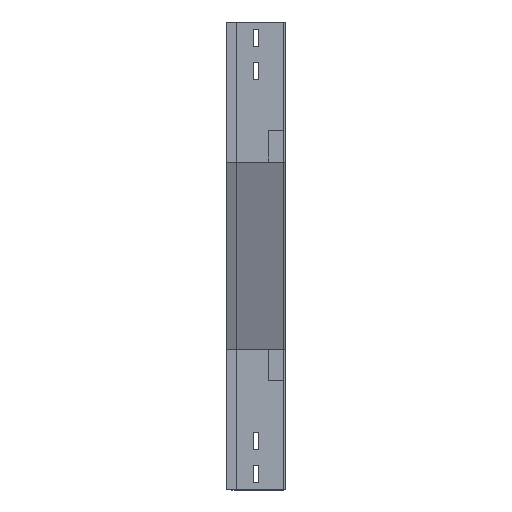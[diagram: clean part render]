
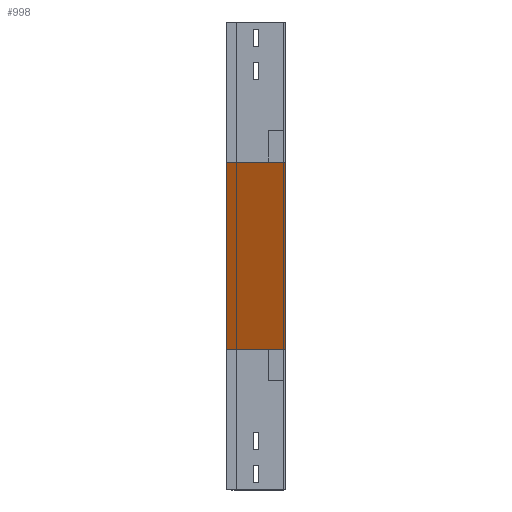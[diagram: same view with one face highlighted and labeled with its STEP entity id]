
A CAD part, left-side view. The second image highlights one B-rep face of the part: STEP entity #998.
In plain terms, the highlighted planar face has unit normal (-0.923, 0, -0.385).
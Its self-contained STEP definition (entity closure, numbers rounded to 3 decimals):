
#90 = DIRECTION ( 'NONE',  ( 0., 1., 0. ) ) ;
#111 = LINE ( 'NONE', #639, #3255 ) ;
#254 = AXIS2_PLACEMENT_3D ( 'NONE', #3385, #305, #1364 ) ;
#305 = DIRECTION ( 'NONE',  ( 0.923, 0., 0.385 ) ) ;
#471 = EDGE_LOOP ( 'NONE', ( #2798, #876, #3104, #2742 ) ) ;
#639 = CARTESIAN_POINT ( 'NONE',  ( 100., 0., -420. ) ) ;
#720 = LINE ( 'NONE', #3305, #2891 ) ;
#729 = VERTEX_POINT ( 'NONE', #3603 ) ;
#795 = DIRECTION ( 'NONE',  ( 0.385, 0., -0.923 ) ) ;
#819 = FACE_OUTER_BOUND ( 'NONE', #471, .T. ) ;
#876 = ORIENTED_EDGE ( 'NONE', *, *, #1330, .F. ) ;
#923 = CARTESIAN_POINT ( 'NONE',  ( 100., 75., -420. ) ) ;
#998 = ADVANCED_FACE ( 'NONE', ( #819 ), #1730, .F. ) ;
#1123 = VERTEX_POINT ( 'NONE', #923 ) ;
#1229 = EDGE_CURVE ( 'NONE', #3155, #1123, #720, .T. ) ;
#1325 = VECTOR ( 'NONE', #2592, 1000. ) ;
#1330 = EDGE_CURVE ( 'NONE', #3155, #729, #3054, .T. ) ;
#1364 = DIRECTION ( 'NONE',  ( 0.385, 0., -0.923 ) ) ;
#1730 = PLANE ( 'NONE',  #254 ) ;
#1784 = LINE ( 'NONE', #3167, #1325 ) ;
#1810 = VERTEX_POINT ( 'NONE', #2354 ) ;
#2234 = CARTESIAN_POINT ( 'NONE',  ( 0., 0., -180. ) ) ;
#2354 = CARTESIAN_POINT ( 'NONE',  ( 100., 0., -420. ) ) ;
#2449 = CARTESIAN_POINT ( 'NONE',  ( 0., 75., -180. ) ) ;
#2592 = DIRECTION ( 'NONE',  ( 0.385, 0., -0.923 ) ) ;
#2742 = ORIENTED_EDGE ( 'NONE', *, *, #2969, .F. ) ;
#2798 = ORIENTED_EDGE ( 'NONE', *, *, #3383, .F. ) ;
#2829 = DIRECTION ( 'NONE',  ( 0., -1., 0. ) ) ;
#2891 = VECTOR ( 'NONE', #795, 1000. ) ;
#2969 = EDGE_CURVE ( 'NONE', #1810, #1123, #111, .T. ) ;
#3054 = LINE ( 'NONE', #2234, #3070 ) ;
#3070 = VECTOR ( 'NONE', #2829, 1000. ) ;
#3104 = ORIENTED_EDGE ( 'NONE', *, *, #1229, .T. ) ;
#3155 = VERTEX_POINT ( 'NONE', #2449 ) ;
#3167 = CARTESIAN_POINT ( 'NONE',  ( 0., 0., -180. ) ) ;
#3255 = VECTOR ( 'NONE', #90, 1000. ) ;
#3305 = CARTESIAN_POINT ( 'NONE',  ( 0., 75., -180. ) ) ;
#3383 = EDGE_CURVE ( 'NONE', #729, #1810, #1784, .T. ) ;
#3385 = CARTESIAN_POINT ( 'NONE',  ( 0., 0., -180. ) ) ;
#3603 = CARTESIAN_POINT ( 'NONE',  ( 0., 0., -180. ) ) ;
